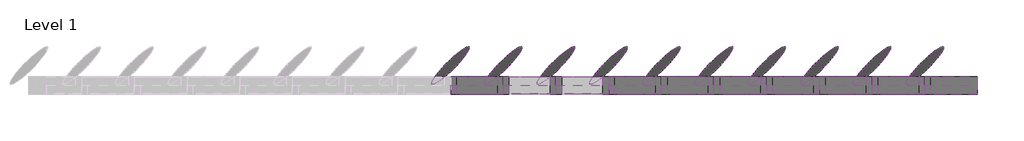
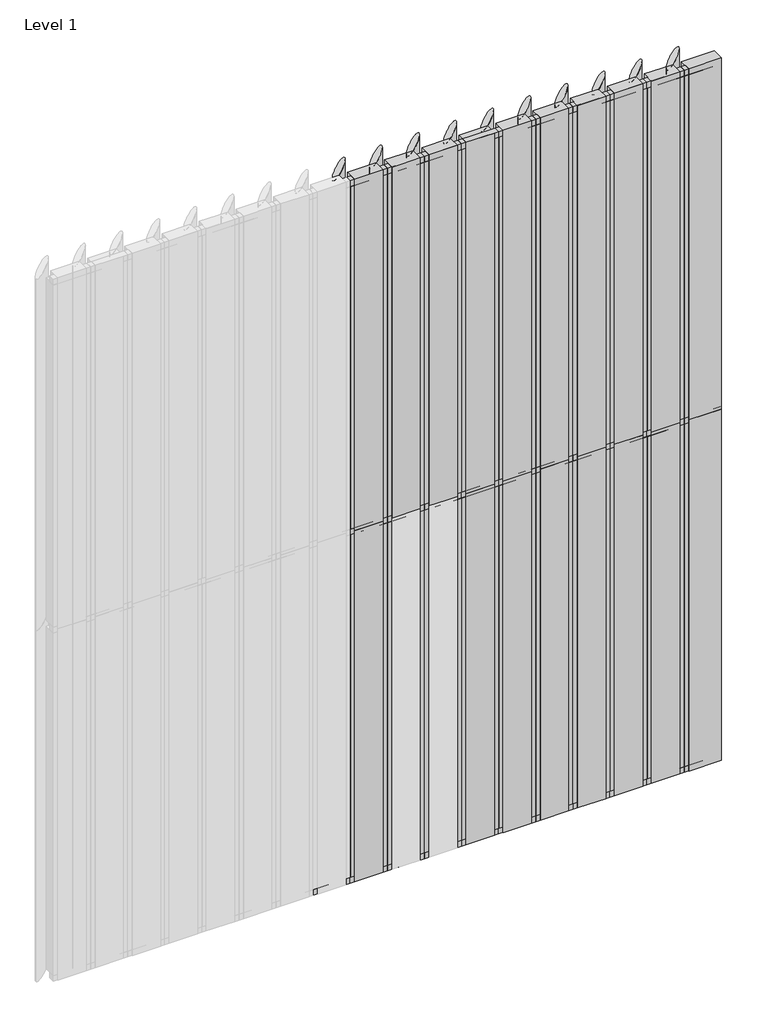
# One storey, part 2 of 2: 51 members, 38 plates.
"""IFC4 building model written with IfcOpenShell, lengths in millimetres."""

from ifc_helpers import new_model, si_unit, origin, place, context, project, spatial, transform, mapped, element, save
from components import rectangular_mullion_58689f85, rectangular_mullion_d9db7a7c, rectangular_mullion_bcb65166, rectangular_mullion_906318ec, empty_system_panel_empty_de177b29, empty_system_panel_empty_7e7673ae, empty_system_panel_empty_eacbfc0b

model = new_model("IFC4")

# Units and contexts
model_context = context("Model", 3, world=origin())
ifc_project = project(units=[si_unit("LENGTHUNIT", "METRE", prefix="MILLI")], contexts=[model_context])

# Site, building, storey
site = spatial("IfcSite", under=ifc_project)
building = spatial("IfcBuilding", under=site)
storey = spatial("IfcBuildingStorey", under=building, Name="Level 1", Elevation=0.0)

# Members
placement = place(None, origin())
rectangular_mullion_shape = rectangular_mullion_58689f85(model_context)
element("IfcMember", 1, ObjectType="Rectangular Mullion : RSen_21_CWM_blade - 300 ellips - 45°_gen_duco projects", at=placement, inside=storey, context=model_context, shape_type="MappedRepresentation", body=[
    mapped(rectangular_mullion_shape, transform((5700.0, 3000.0, 0.0), x_axis=(-1.0, 0.0, 0.0), y_axis=(0.0, 1.0, 0.0), z_axis=(0.0, 0.0, -1.0))),
])
element("IfcMember", 2, ObjectType="Rectangular Mullion : RSen_21_CWM_blade - 300 ellips - 45°_gen_duco projects", at=placement, inside=storey, context=model_context, shape_type="MappedRepresentation", body=[
    mapped(rectangular_mullion_shape, transform((5400.0, 3000.0, 0.0), x_axis=(-1.0, 0.0, 0.0), y_axis=(0.0, 1.0, 0.0), z_axis=(0.0, 0.0, -1.0))),
])
element("IfcMember", 3, ObjectType="Rectangular Mullion : RSen_21_CWM_blade - 300 ellips - 45°_gen_duco projects", at=placement, inside=storey, context=model_context, shape_type="MappedRepresentation", body=[
    mapped(rectangular_mullion_shape, transform((5100.0, 3000.0, 0.0), x_axis=(-1.0, 0.0, 0.0), y_axis=(0.0, 1.0, 0.0), z_axis=(0.0, 0.0, -1.0))),
])
element("IfcMember", 4, ObjectType="Rectangular Mullion : RSen_21_CWM_blade - 300 ellips - 45°_gen_duco projects", at=placement, inside=storey, context=model_context, shape_type="MappedRepresentation", body=[
    mapped(rectangular_mullion_shape, transform((4800.0, 3000.0, 0.0), x_axis=(-1.0, 0.0, 0.0), y_axis=(0.0, 1.0, 0.0), z_axis=(0.0, 0.0, -1.0))),
])
element("IfcMember", 5, ObjectType="Rectangular Mullion : RSen_21_CWM_blade - 300 ellips - 45°_gen_duco projects", at=placement, inside=storey, context=model_context, shape_type="MappedRepresentation", body=[
    mapped(rectangular_mullion_shape, transform((4500.0, 3000.0, 0.0), x_axis=(-1.0, 0.0, 0.0), y_axis=(0.0, 1.0, 0.0), z_axis=(0.0, 0.0, -1.0))),
])
element("IfcMember", 6, ObjectType="Rectangular Mullion : RSen_21_CWM_blade - 300 ellips - 45°_gen_duco projects", at=placement, inside=storey, context=model_context, shape_type="MappedRepresentation", body=[
    mapped(rectangular_mullion_shape, transform((4200.0, 3000.0, 0.0), x_axis=(-1.0, 0.0, 0.0), y_axis=(0.0, 1.0, 0.0), z_axis=(0.0, 0.0, -1.0))),
])
element("IfcMember", 7, ObjectType="Rectangular Mullion : RSen_21_CWM_blade - 300 ellips - 45°_gen_duco projects", at=placement, inside=storey, context=model_context, shape_type="MappedRepresentation", body=[
    mapped(rectangular_mullion_shape, transform((3900.0, 3000.0, 0.0), x_axis=(-1.0, 0.0, 0.0), y_axis=(0.0, 1.0, 0.0), z_axis=(0.0, 0.0, -1.0))),
])
element("IfcMember", 8, ObjectType="Rectangular Mullion : RSen_21_CWM_blade - 300 ellips - 45°_gen_duco projects", at=placement, inside=storey, context=model_context, shape_type="MappedRepresentation", body=[
    mapped(rectangular_mullion_shape, transform((3600.0, 3000.0, 0.0), x_axis=(-1.0, 0.0, 0.0), y_axis=(0.0, 1.0, 0.0), z_axis=(0.0, 0.0, -1.0))),
])
element("IfcMember", 9, ObjectType="Rectangular Mullion : RSen_21_CWM_blade - 300 ellips - 45°_gen_duco projects", at=placement, inside=storey, context=model_context, shape_type="MappedRepresentation", body=[
    mapped(rectangular_mullion_shape, transform((3300.0, 3000.0, 0.0), x_axis=(-1.0, 0.0, 0.0), y_axis=(0.0, 1.0, 0.0), z_axis=(0.0, 0.0, -1.0))),
])
element("IfcMember", 10, ObjectType="Rectangular Mullion : RSen_21_CWM_blade - 300 ellips - 45°_gen_duco projects", at=placement, inside=storey, context=model_context, shape_type="MappedRepresentation", body=[
    mapped(rectangular_mullion_shape, transform((3000.0, 3000.0, 0.0), x_axis=(-1.0, 0.0, 0.0), y_axis=(0.0, 1.0, 0.0), z_axis=(0.0, 0.0, -1.0))),
])
element("IfcMember", 11, ObjectType="Rectangular Mullion : RSen_21_CWM_blade - 300 ellips - 45°_gen_duco projects", at=placement, inside=storey, context=model_context, shape_type="MappedRepresentation", body=[
    mapped(rectangular_mullion_shape, transform((5700.0, 3000.0, 3000.0), x_axis=(-1.0, 0.0, 0.0), y_axis=(0.0, 1.0, 0.0), z_axis=(0.0, 0.0, -1.0))),
])
element("IfcMember", 12, ObjectType="Rectangular Mullion : RSen_21_CWM_blade - 300 ellips - 45°_gen_duco projects", at=placement, inside=storey, context=model_context, shape_type="MappedRepresentation", body=[
    mapped(rectangular_mullion_shape, transform((5400.0, 3000.0, 3000.0), x_axis=(-1.0, 0.0, 0.0), y_axis=(0.0, 1.0, 0.0), z_axis=(0.0, 0.0, -1.0))),
])
element("IfcMember", 13, ObjectType="Rectangular Mullion : RSen_21_CWM_blade - 300 ellips - 45°_gen_duco projects", at=placement, inside=storey, context=model_context, shape_type="MappedRepresentation", body=[
    mapped(rectangular_mullion_shape, transform((5100.0, 3000.0, 3000.0), x_axis=(-1.0, 0.0, 0.0), y_axis=(0.0, 1.0, 0.0), z_axis=(0.0, 0.0, -1.0))),
])
element("IfcMember", 14, ObjectType="Rectangular Mullion : RSen_21_CWM_blade - 300 ellips - 45°_gen_duco projects", at=placement, inside=storey, context=model_context, shape_type="MappedRepresentation", body=[
    mapped(rectangular_mullion_shape, transform((4800.0, 3000.0, 3000.0), x_axis=(-1.0, 0.0, 0.0), y_axis=(0.0, 1.0, 0.0), z_axis=(0.0, 0.0, -1.0))),
])
element("IfcMember", 15, ObjectType="Rectangular Mullion : RSen_21_CWM_blade - 300 ellips - 45°_gen_duco projects", at=placement, inside=storey, context=model_context, shape_type="MappedRepresentation", body=[
    mapped(rectangular_mullion_shape, transform((4500.0, 3000.0, 3000.0), x_axis=(-1.0, 0.0, 0.0), y_axis=(0.0, 1.0, 0.0), z_axis=(0.0, 0.0, -1.0))),
])
element("IfcMember", 16, ObjectType="Rectangular Mullion : RSen_21_CWM_blade - 300 ellips - 45°_gen_duco projects", at=placement, inside=storey, context=model_context, shape_type="MappedRepresentation", body=[
    mapped(rectangular_mullion_shape, transform((4200.0, 3000.0, 3000.0), x_axis=(-1.0, 0.0, 0.0), y_axis=(0.0, 1.0, 0.0), z_axis=(0.0, 0.0, -1.0))),
])
element("IfcMember", 17, ObjectType="Rectangular Mullion : RSen_21_CWM_blade - 300 ellips - 45°_gen_duco projects", at=placement, inside=storey, context=model_context, shape_type="MappedRepresentation", body=[
    mapped(rectangular_mullion_shape, transform((3900.0, 3000.0, 3000.0), x_axis=(-1.0, 0.0, 0.0), y_axis=(0.0, 1.0, 0.0), z_axis=(0.0, 0.0, -1.0))),
])
element("IfcMember", 18, ObjectType="Rectangular Mullion : RSen_21_CWM_blade - 300 ellips - 45°_gen_duco projects", at=placement, inside=storey, context=model_context, shape_type="MappedRepresentation", body=[
    mapped(rectangular_mullion_shape, transform((3600.0, 3000.0, 3000.0), x_axis=(-1.0, 0.0, 0.0), y_axis=(0.0, 1.0, 0.0), z_axis=(0.0, 0.0, -1.0))),
])
element("IfcMember", 19, ObjectType="Rectangular Mullion : RSen_21_CWM_blade - 300 ellips - 45°_gen_duco projects", at=placement, inside=storey, context=model_context, shape_type="MappedRepresentation", body=[
    mapped(rectangular_mullion_shape, transform((3300.0, 3000.0, 3000.0), x_axis=(-1.0, 0.0, 0.0), y_axis=(0.0, 1.0, 0.0), z_axis=(0.0, 0.0, -1.0))),
])
element("IfcMember", 20, ObjectType="Rectangular Mullion : RSen_21_CWM_blade - 300 ellips - 45°_gen_duco projects", at=placement, inside=storey, context=model_context, shape_type="MappedRepresentation", body=[
    mapped(rectangular_mullion_shape, transform((3000.0, 3000.0, 3000.0), x_axis=(-1.0, 0.0, 0.0), y_axis=(0.0, 1.0, 0.0), z_axis=(0.0, 0.0, -1.0))),
])
rectangular_mullion_2_shape = rectangular_mullion_d9db7a7c(model_context)
element("IfcMember", 21, ObjectType="Rectangular Mullion : RSen_21_CWM_support profile 50x50 - right_gen_duco projects", at=placement, inside=storey, context=model_context, shape_type="MappedRepresentation", body=[
    mapped(rectangular_mullion_2_shape, transform((6000.0, 3000.0, 0.0), x_axis=(0.0, 0.0, -1.0), y_axis=(0.0, 1.0, 0.0), z_axis=(1.0, 0.0, 0.0))),
])
rectangular_mullion_3_shape = rectangular_mullion_bcb65166(model_context)
element("IfcMember", 22, ObjectType="Rectangular Mullion : RSen_21_CWM_support profile 50x50 - left_gen_duco projects", at=placement, inside=storey, context=model_context, shape_type="MappedRepresentation", body=[
    mapped(rectangular_mullion_3_shape, transform((5700.0, 3000.0, 6000.0), x_axis=(0.0, 0.0, 1.0), y_axis=(0.0, 1.0, 0.0), z_axis=(-1.0, 0.0, 0.0))),
])
element("IfcMember", 23, ObjectType="Rectangular Mullion : RSen_21_CWM_support profile 50x50 - left_gen_duco projects", at=placement, inside=storey, context=model_context, shape_type="MappedRepresentation", body=[
    mapped(rectangular_mullion_3_shape, transform((5400.0, 3000.0, 6000.0), x_axis=(0.0, 0.0, 1.0), y_axis=(0.0, 1.0, 0.0), z_axis=(-1.0, 0.0, 0.0))),
])
element("IfcMember", 24, ObjectType="Rectangular Mullion : RSen_21_CWM_support profile 50x50 - left_gen_duco projects", at=placement, inside=storey, context=model_context, shape_type="MappedRepresentation", body=[
    mapped(rectangular_mullion_3_shape, transform((5100.0, 3000.0, 6000.0), x_axis=(0.0, 0.0, 1.0), y_axis=(0.0, 1.0, 0.0), z_axis=(-1.0, 0.0, 0.0))),
])
element("IfcMember", 25, ObjectType="Rectangular Mullion : RSen_21_CWM_support profile 50x50 - left_gen_duco projects", at=placement, inside=storey, context=model_context, shape_type="MappedRepresentation", body=[
    mapped(rectangular_mullion_3_shape, transform((4800.0, 3000.0, 6000.0), x_axis=(0.0, 0.0, 1.0), y_axis=(0.0, 1.0, 0.0), z_axis=(-1.0, 0.0, 0.0))),
])
element("IfcMember", 26, ObjectType="Rectangular Mullion : RSen_21_CWM_support profile 50x50 - left_gen_duco projects", at=placement, inside=storey, context=model_context, shape_type="MappedRepresentation", body=[
    mapped(rectangular_mullion_3_shape, transform((4500.0, 3000.0, 6000.0), x_axis=(0.0, 0.0, 1.0), y_axis=(0.0, 1.0, 0.0), z_axis=(-1.0, 0.0, 0.0))),
])
element("IfcMember", 27, ObjectType="Rectangular Mullion : RSen_21_CWM_support profile 50x50 - left_gen_duco projects", at=placement, inside=storey, context=model_context, shape_type="MappedRepresentation", body=[
    mapped(rectangular_mullion_3_shape, transform((4200.0, 3000.0, 6000.0), x_axis=(0.0, 0.0, 1.0), y_axis=(0.0, 1.0, 0.0), z_axis=(-1.0, 0.0, 0.0))),
])
element("IfcMember", 28, ObjectType="Rectangular Mullion : RSen_21_CWM_support profile 50x50 - left_gen_duco projects", at=placement, inside=storey, context=model_context, shape_type="MappedRepresentation", body=[
    mapped(rectangular_mullion_3_shape, transform((3900.0, 3000.0, 6000.0), x_axis=(0.0, 0.0, 1.0), y_axis=(0.0, 1.0, 0.0), z_axis=(-1.0, 0.0, 0.0))),
])
element("IfcMember", 29, ObjectType="Rectangular Mullion : RSen_21_CWM_support profile 50x50 - left_gen_duco projects", at=placement, inside=storey, context=model_context, shape_type="MappedRepresentation", body=[
    mapped(rectangular_mullion_3_shape, transform((3600.0, 3000.0, 6000.0), x_axis=(0.0, 0.0, 1.0), y_axis=(0.0, 1.0, 0.0), z_axis=(-1.0, 0.0, 0.0))),
])
element("IfcMember", 30, ObjectType="Rectangular Mullion : RSen_21_CWM_support profile 50x50 - left_gen_duco projects", at=placement, inside=storey, context=model_context, shape_type="MappedRepresentation", body=[
    mapped(rectangular_mullion_3_shape, transform((3300.0, 3000.0, 6000.0), x_axis=(0.0, 0.0, 1.0), y_axis=(0.0, 1.0, 0.0), z_axis=(-1.0, 0.0, 0.0))),
])
element("IfcMember", 31, ObjectType="Rectangular Mullion : RSen_21_CWM_support profile 50x50 - left_gen_duco projects", at=placement, inside=storey, context=model_context, shape_type="MappedRepresentation", body=[
    mapped(rectangular_mullion_3_shape, transform((3000.0, 3000.0, 6000.0), x_axis=(0.0, 0.0, 1.0), y_axis=(0.0, 1.0, 0.0), z_axis=(-1.0, 0.0, 0.0))),
])
element("IfcMember", 32, ObjectType="Rectangular Mullion : RSen_21_CWM_support profile 50x50 - right_gen_duco projects", at=placement, inside=storey, context=model_context, shape_type="MappedRepresentation", body=[
    mapped(rectangular_mullion_2_shape, transform((5700.0, 3000.0, 0.0), x_axis=(0.0, 0.0, -1.0), y_axis=(0.0, 1.0, 0.0), z_axis=(1.0, 0.0, 0.0))),
])
element("IfcMember", 33, ObjectType="Rectangular Mullion : RSen_21_CWM_support profile 50x50 - right_gen_duco projects", at=placement, inside=storey, context=model_context, shape_type="MappedRepresentation", body=[
    mapped(rectangular_mullion_2_shape, transform((5400.0, 3000.0, 0.0), x_axis=(0.0, 0.0, -1.0), y_axis=(0.0, 1.0, 0.0), z_axis=(1.0, 0.0, 0.0))),
])
element("IfcMember", 34, ObjectType="Rectangular Mullion : RSen_21_CWM_support profile 50x50 - right_gen_duco projects", at=placement, inside=storey, context=model_context, shape_type="MappedRepresentation", body=[
    mapped(rectangular_mullion_2_shape, transform((5100.0, 3000.0, 0.0), x_axis=(0.0, 0.0, -1.0), y_axis=(0.0, 1.0, 0.0), z_axis=(1.0, 0.0, 0.0))),
])
element("IfcMember", 35, ObjectType="Rectangular Mullion : RSen_21_CWM_support profile 50x50 - right_gen_duco projects", at=placement, inside=storey, context=model_context, shape_type="MappedRepresentation", body=[
    mapped(rectangular_mullion_2_shape, transform((4800.0, 3000.0, 0.0), x_axis=(0.0, 0.0, -1.0), y_axis=(0.0, 1.0, 0.0), z_axis=(1.0, 0.0, 0.0))),
])
element("IfcMember", 36, ObjectType="Rectangular Mullion : RSen_21_CWM_support profile 50x50 - right_gen_duco projects", at=placement, inside=storey, context=model_context, shape_type="MappedRepresentation", body=[
    mapped(rectangular_mullion_2_shape, transform((4500.0, 3000.0, 0.0), x_axis=(0.0, 0.0, -1.0), y_axis=(0.0, 1.0, 0.0), z_axis=(1.0, 0.0, 0.0))),
])
element("IfcMember", 37, ObjectType="Rectangular Mullion : RSen_21_CWM_support profile 50x50 - right_gen_duco projects", at=placement, inside=storey, context=model_context, shape_type="MappedRepresentation", body=[
    mapped(rectangular_mullion_2_shape, transform((4200.0, 3000.0, 0.0), x_axis=(0.0, 0.0, -1.0), y_axis=(0.0, 1.0, 0.0), z_axis=(1.0, 0.0, 0.0))),
])
element("IfcMember", 38, ObjectType="Rectangular Mullion : RSen_21_CWM_support profile 50x50 - right_gen_duco projects", at=placement, inside=storey, context=model_context, shape_type="MappedRepresentation", body=[
    mapped(rectangular_mullion_2_shape, transform((3900.0, 3000.0, 0.0), x_axis=(0.0, 0.0, -1.0), y_axis=(0.0, 1.0, 0.0), z_axis=(1.0, 0.0, 0.0))),
])
element("IfcMember", 39, ObjectType="Rectangular Mullion : RSen_21_CWM_support profile 50x50 - right_gen_duco projects", at=placement, inside=storey, context=model_context, shape_type="MappedRepresentation", body=[
    mapped(rectangular_mullion_2_shape, transform((3600.0, 3000.0, 0.0), x_axis=(0.0, 0.0, -1.0), y_axis=(0.0, 1.0, 0.0), z_axis=(1.0, 0.0, 0.0))),
])
element("IfcMember", 40, ObjectType="Rectangular Mullion : RSen_21_CWM_support profile 50x50 - right_gen_duco projects", at=placement, inside=storey, context=model_context, shape_type="MappedRepresentation", body=[
    mapped(rectangular_mullion_2_shape, transform((3300.0, 3000.0, 0.0), x_axis=(0.0, 0.0, -1.0), y_axis=(0.0, 1.0, 0.0), z_axis=(1.0, 0.0, 0.0))),
])
element("IfcMember", 41, ObjectType="Rectangular Mullion : RSen_21_CWM_support profile 50x50 - right_gen_duco projects", at=placement, inside=storey, context=model_context, shape_type="MappedRepresentation", body=[
    mapped(rectangular_mullion_2_shape, transform((3000.0, 3000.0, 0.0), x_axis=(0.0, 0.0, -1.0), y_axis=(0.0, 1.0, 0.0), z_axis=(1.0, 0.0, 0.0))),
])
rectangular_mullion_4_shape = rectangular_mullion_906318ec(model_context)
element("IfcMember", 42, ObjectType="Rectangular Mullion : RSen_21_CWM_support profile 50x50_gen_duco projects", at=placement, inside=storey, context=model_context, shape_type="MappedRepresentation", body=[
    mapped(rectangular_mullion_4_shape, transform((5700.0, 3000.0, 3000.0), x_axis=(0.0, 0.0, 1.0), y_axis=(0.0, 1.0, 0.0), z_axis=(-1.0, 0.0, 0.0))),
])
element("IfcMember", 43, ObjectType="Rectangular Mullion : RSen_21_CWM_support profile 50x50_gen_duco projects", at=placement, inside=storey, context=model_context, shape_type="MappedRepresentation", body=[
    mapped(rectangular_mullion_4_shape, transform((5400.0, 3000.0, 3000.0), x_axis=(0.0, 0.0, 1.0), y_axis=(0.0, 1.0, 0.0), z_axis=(-1.0, 0.0, 0.0))),
])
element("IfcMember", 44, ObjectType="Rectangular Mullion : RSen_21_CWM_support profile 50x50_gen_duco projects", at=placement, inside=storey, context=model_context, shape_type="MappedRepresentation", body=[
    mapped(rectangular_mullion_4_shape, transform((5100.0, 3000.0, 3000.0), x_axis=(0.0, 0.0, 1.0), y_axis=(0.0, 1.0, 0.0), z_axis=(-1.0, 0.0, 0.0))),
])
element("IfcMember", 45, ObjectType="Rectangular Mullion : RSen_21_CWM_support profile 50x50_gen_duco projects", at=placement, inside=storey, context=model_context, shape_type="MappedRepresentation", body=[
    mapped(rectangular_mullion_4_shape, transform((4800.0, 3000.0, 3000.0), x_axis=(0.0, 0.0, 1.0), y_axis=(0.0, 1.0, 0.0), z_axis=(-1.0, 0.0, 0.0))),
])
element("IfcMember", 46, ObjectType="Rectangular Mullion : RSen_21_CWM_support profile 50x50_gen_duco projects", at=placement, inside=storey, context=model_context, shape_type="MappedRepresentation", body=[
    mapped(rectangular_mullion_4_shape, transform((4500.0, 3000.0, 3000.0), x_axis=(0.0, 0.0, 1.0), y_axis=(0.0, 1.0, 0.0), z_axis=(-1.0, 0.0, 0.0))),
])
element("IfcMember", 47, ObjectType="Rectangular Mullion : RSen_21_CWM_support profile 50x50_gen_duco projects", at=placement, inside=storey, context=model_context, shape_type="MappedRepresentation", body=[
    mapped(rectangular_mullion_4_shape, transform((4200.0, 3000.0, 3000.0), x_axis=(0.0, 0.0, 1.0), y_axis=(0.0, 1.0, 0.0), z_axis=(-1.0, 0.0, 0.0))),
])
element("IfcMember", 48, ObjectType="Rectangular Mullion : RSen_21_CWM_support profile 50x50_gen_duco projects", at=placement, inside=storey, context=model_context, shape_type="MappedRepresentation", body=[
    mapped(rectangular_mullion_4_shape, transform((3900.0, 3000.0, 3000.0), x_axis=(0.0, 0.0, 1.0), y_axis=(0.0, 1.0, 0.0), z_axis=(-1.0, 0.0, 0.0))),
])
element("IfcMember", 49, ObjectType="Rectangular Mullion : RSen_21_CWM_support profile 50x50_gen_duco projects", at=placement, inside=storey, context=model_context, shape_type="MappedRepresentation", body=[
    mapped(rectangular_mullion_4_shape, transform((3600.0, 3000.0, 3000.0), x_axis=(0.0, 0.0, 1.0), y_axis=(0.0, 1.0, 0.0), z_axis=(-1.0, 0.0, 0.0))),
])
element("IfcMember", 50, ObjectType="Rectangular Mullion : RSen_21_CWM_support profile 50x50_gen_duco projects", at=placement, inside=storey, context=model_context, shape_type="MappedRepresentation", body=[
    mapped(rectangular_mullion_4_shape, transform((3300.0, 3000.0, 3000.0), x_axis=(0.0, 0.0, 1.0), y_axis=(0.0, 1.0, 0.0), z_axis=(-1.0, 0.0, 0.0))),
])
element("IfcMember", 51, ObjectType="Rectangular Mullion : RSen_21_CWM_support profile 50x50_gen_duco projects", at=placement, inside=storey, context=model_context, shape_type="MappedRepresentation", body=[
    mapped(rectangular_mullion_4_shape, transform((3000.0, 3000.0, 3000.0), x_axis=(0.0, 0.0, 1.0), y_axis=(0.0, 1.0, 0.0), z_axis=(-1.0, 0.0, 0.0))),
])

# Plates
empty_system_panel_empty_shape = empty_system_panel_empty_de177b29(model_context)
element("IfcPlate", 52, ObjectType="Empty System Panel : Empty", at=placement, inside=storey, context=model_context, shape_type="MappedRepresentation", body=[
    mapped(empty_system_panel_empty_shape, transform((5867.6776695, 3000.0, 0.0), x_axis=(-1.0, 0.0, 0.0), y_axis=(0.0, -1.0, 0.0), z_axis=(0.0, 0.0, 1.0))),
])
element("IfcPlate", 53, ObjectType="Empty System Panel : Empty", at=placement, inside=storey, context=model_context, shape_type="MappedRepresentation", body=[
    mapped(empty_system_panel_empty_shape, transform((5867.6776695, 3000.0, 3000.0), x_axis=(-1.0, 0.0, 0.0), y_axis=(0.0, -1.0, 0.0), z_axis=(0.0, 0.0, 1.0))),
])
empty_system_panel_empty_2_shape = empty_system_panel_empty_7e7673ae(model_context)
element("IfcPlate", 54, ObjectType="Empty System Panel : Empty", at=placement, inside=storey, context=model_context, shape_type="MappedRepresentation", body=[
    mapped(empty_system_panel_empty_2_shape, transform((5550.0, 3000.0, 0.0), x_axis=(-1.0, 0.0, 0.0), y_axis=(0.0, -1.0, 0.0), z_axis=(0.0, 0.0, 1.0))),
])
element("IfcPlate", 55, ObjectType="Empty System Panel : Empty", at=placement, inside=storey, context=model_context, shape_type="MappedRepresentation", body=[
    mapped(empty_system_panel_empty_2_shape, transform((5250.0, 3000.0, 0.0), x_axis=(-1.0, 0.0, 0.0), y_axis=(0.0, -1.0, 0.0), z_axis=(0.0, 0.0, 1.0))),
])
element("IfcPlate", 56, ObjectType="Empty System Panel : Empty", at=placement, inside=storey, context=model_context, shape_type="MappedRepresentation", body=[
    mapped(empty_system_panel_empty_2_shape, transform((4950.0, 3000.0, 0.0), x_axis=(-1.0, 0.0, 0.0), y_axis=(0.0, -1.0, 0.0), z_axis=(0.0, 0.0, 1.0))),
])
element("IfcPlate", 57, ObjectType="Empty System Panel : Empty", at=placement, inside=storey, context=model_context, shape_type="MappedRepresentation", body=[
    mapped(empty_system_panel_empty_2_shape, transform((4650.0, 3000.0, 0.0), x_axis=(-1.0, 0.0, 0.0), y_axis=(0.0, -1.0, 0.0), z_axis=(0.0, 0.0, 1.0))),
])
element("IfcPlate", 58, ObjectType="Empty System Panel : Empty", at=placement, inside=storey, context=model_context, shape_type="MappedRepresentation", body=[
    mapped(empty_system_panel_empty_2_shape, transform((4350.0, 3000.0, 0.0), x_axis=(-1.0, 0.0, 0.0), y_axis=(0.0, -1.0, 0.0), z_axis=(0.0, 0.0, 1.0))),
])
element("IfcPlate", 59, ObjectType="Empty System Panel : Empty", at=placement, inside=storey, context=model_context, shape_type="MappedRepresentation", body=[
    mapped(empty_system_panel_empty_2_shape, transform((4050.0, 3000.0, 0.0), x_axis=(-1.0, 0.0, 0.0), y_axis=(0.0, -1.0, 0.0), z_axis=(0.0, 0.0, 1.0))),
])
element("IfcPlate", 60, ObjectType="Empty System Panel : Empty", at=placement, inside=storey, context=model_context, shape_type="MappedRepresentation", body=[
    mapped(empty_system_panel_empty_2_shape, transform((3150.0, 3000.0, 0.0), x_axis=(-1.0, 0.0, 0.0), y_axis=(0.0, -1.0, 0.0), z_axis=(0.0, 0.0, 1.0))),
])
element("IfcPlate", 61, ObjectType="Empty System Panel : Empty", at=placement, inside=storey, context=model_context, shape_type="MappedRepresentation", body=[
    mapped(empty_system_panel_empty_2_shape, transform((5550.0, 3000.0, 3000.0), x_axis=(-1.0, 0.0, 0.0), y_axis=(0.0, -1.0, 0.0), z_axis=(0.0, 0.0, 1.0))),
])
element("IfcPlate", 62, ObjectType="Empty System Panel : Empty", at=placement, inside=storey, context=model_context, shape_type="MappedRepresentation", body=[
    mapped(empty_system_panel_empty_2_shape, transform((5250.0, 3000.0, 3000.0), x_axis=(-1.0, 0.0, 0.0), y_axis=(0.0, -1.0, 0.0), z_axis=(0.0, 0.0, 1.0))),
])
element("IfcPlate", 63, ObjectType="Empty System Panel : Empty", at=placement, inside=storey, context=model_context, shape_type="MappedRepresentation", body=[
    mapped(empty_system_panel_empty_2_shape, transform((4950.0, 3000.0, 3000.0), x_axis=(-1.0, 0.0, 0.0), y_axis=(0.0, -1.0, 0.0), z_axis=(0.0, 0.0, 1.0))),
])
element("IfcPlate", 64, ObjectType="Empty System Panel : Empty", at=placement, inside=storey, context=model_context, shape_type="MappedRepresentation", body=[
    mapped(empty_system_panel_empty_2_shape, transform((4650.0, 3000.0, 3000.0), x_axis=(-1.0, 0.0, 0.0), y_axis=(0.0, -1.0, 0.0), z_axis=(0.0, 0.0, 1.0))),
])
element("IfcPlate", 65, ObjectType="Empty System Panel : Empty", at=placement, inside=storey, context=model_context, shape_type="MappedRepresentation", body=[
    mapped(empty_system_panel_empty_2_shape, transform((4350.0, 3000.0, 3000.0), x_axis=(-1.0, 0.0, 0.0), y_axis=(0.0, -1.0, 0.0), z_axis=(0.0, 0.0, 1.0))),
])
element("IfcPlate", 66, ObjectType="Empty System Panel : Empty", at=placement, inside=storey, context=model_context, shape_type="MappedRepresentation", body=[
    mapped(empty_system_panel_empty_2_shape, transform((4050.0, 3000.0, 3000.0), x_axis=(-1.0, 0.0, 0.0), y_axis=(0.0, -1.0, 0.0), z_axis=(0.0, 0.0, 1.0))),
])
element("IfcPlate", 67, ObjectType="Empty System Panel : Empty", at=placement, inside=storey, context=model_context, shape_type="MappedRepresentation", body=[
    mapped(empty_system_panel_empty_2_shape, transform((3750.0, 3000.0, 3000.0), x_axis=(-1.0, 0.0, 0.0), y_axis=(0.0, -1.0, 0.0), z_axis=(0.0, 0.0, 1.0))),
])
element("IfcPlate", 68, ObjectType="Empty System Panel : Empty", at=placement, inside=storey, context=model_context, shape_type="MappedRepresentation", body=[
    mapped(empty_system_panel_empty_2_shape, transform((3450.0, 3000.0, 3000.0), x_axis=(-1.0, 0.0, 0.0), y_axis=(0.0, -1.0, 0.0), z_axis=(0.0, 0.0, 1.0))),
])
element("IfcPlate", 69, ObjectType="Empty System Panel : Empty", at=placement, inside=storey, context=model_context, shape_type="MappedRepresentation", body=[
    mapped(empty_system_panel_empty_2_shape, transform((3150.0, 3000.0, 3000.0), x_axis=(-1.0, 0.0, 0.0), y_axis=(0.0, -1.0, 0.0), z_axis=(0.0, 0.0, 1.0))),
])
empty_system_panel_empty_3_shape = empty_system_panel_empty_eacbfc0b(model_context)
element("IfcPlate", 70, ObjectType="Empty System Panel : Empty", at=placement, inside=storey, context=model_context, shape_type="MappedRepresentation", body=[
    mapped(empty_system_panel_empty_3_shape, transform((5850.0, 3000.0, 50.0), x_axis=(-1.0, 0.0, 0.0), y_axis=(0.0, -1.0, 0.0), z_axis=(0.0, 0.0, 1.0))),
])
element("IfcPlate", 71, ObjectType="Empty System Panel : Empty", at=placement, inside=storey, context=model_context, shape_type="MappedRepresentation", body=[
    mapped(empty_system_panel_empty_3_shape, transform((5550.0, 3000.0, 50.0), x_axis=(-1.0, 0.0, 0.0), y_axis=(0.0, -1.0, 0.0), z_axis=(0.0, 0.0, 1.0))),
])
element("IfcPlate", 72, ObjectType="Empty System Panel : Empty", at=placement, inside=storey, context=model_context, shape_type="MappedRepresentation", body=[
    mapped(empty_system_panel_empty_3_shape, transform((5250.0, 3000.0, 50.0), x_axis=(-1.0, 0.0, 0.0), y_axis=(0.0, -1.0, 0.0), z_axis=(0.0, 0.0, 1.0))),
])
element("IfcPlate", 73, ObjectType="Empty System Panel : Empty", at=placement, inside=storey, context=model_context, shape_type="MappedRepresentation", body=[
    mapped(empty_system_panel_empty_3_shape, transform((4950.0, 3000.0, 50.0), x_axis=(-1.0, 0.0, 0.0), y_axis=(0.0, -1.0, 0.0), z_axis=(0.0, 0.0, 1.0))),
])
element("IfcPlate", 74, ObjectType="Empty System Panel : Empty", at=placement, inside=storey, context=model_context, shape_type="MappedRepresentation", body=[
    mapped(empty_system_panel_empty_3_shape, transform((4650.0, 3000.0, 50.0), x_axis=(-1.0, 0.0, 0.0), y_axis=(0.0, -1.0, 0.0), z_axis=(0.0, 0.0, 1.0))),
])
element("IfcPlate", 75, ObjectType="Empty System Panel : Empty", at=placement, inside=storey, context=model_context, shape_type="MappedRepresentation", body=[
    mapped(empty_system_panel_empty_3_shape, transform((4350.0, 3000.0, 50.0), x_axis=(-1.0, 0.0, 0.0), y_axis=(0.0, -1.0, 0.0), z_axis=(0.0, 0.0, 1.0))),
])
element("IfcPlate", 76, ObjectType="Empty System Panel : Empty", at=placement, inside=storey, context=model_context, shape_type="MappedRepresentation", body=[
    mapped(empty_system_panel_empty_3_shape, transform((4050.0, 3000.0, 50.0), x_axis=(-1.0, 0.0, 0.0), y_axis=(0.0, -1.0, 0.0), z_axis=(0.0, 0.0, 1.0))),
])
element("IfcPlate", 77, ObjectType="Empty System Panel : Empty", at=placement, inside=storey, context=model_context, shape_type="MappedRepresentation", body=[
    mapped(empty_system_panel_empty_3_shape, transform((3750.0, 3000.0, 50.0), x_axis=(-1.0, 0.0, 0.0), y_axis=(0.0, -1.0, 0.0), z_axis=(0.0, 0.0, 1.0))),
])
element("IfcPlate", 78, ObjectType="Empty System Panel : Empty", at=placement, inside=storey, context=model_context, shape_type="MappedRepresentation", body=[
    mapped(empty_system_panel_empty_3_shape, transform((3450.0, 3000.0, 50.0), x_axis=(-1.0, 0.0, 0.0), y_axis=(0.0, -1.0, 0.0), z_axis=(0.0, 0.0, 1.0))),
])
element("IfcPlate", 79, ObjectType="Empty System Panel : Empty", at=placement, inside=storey, context=model_context, shape_type="MappedRepresentation", body=[
    mapped(empty_system_panel_empty_3_shape, transform((3150.0, 3000.0, 50.0), x_axis=(-1.0, 0.0, 0.0), y_axis=(0.0, -1.0, 0.0), z_axis=(0.0, 0.0, 1.0))),
])
element("IfcPlate", 80, ObjectType="Empty System Panel : Empty", at=placement, inside=storey, context=model_context, shape_type="MappedRepresentation", body=[
    mapped(empty_system_panel_empty_3_shape, transform((5850.0, 3000.0, 3025.0), x_axis=(-1.0, 0.0, 0.0), y_axis=(0.0, -1.0, 0.0), z_axis=(0.0, 0.0, 1.0))),
])
element("IfcPlate", 81, ObjectType="Empty System Panel : Empty", at=placement, inside=storey, context=model_context, shape_type="MappedRepresentation", body=[
    mapped(empty_system_panel_empty_3_shape, transform((5550.0, 3000.0, 3025.0), x_axis=(-1.0, 0.0, 0.0), y_axis=(0.0, -1.0, 0.0), z_axis=(0.0, 0.0, 1.0))),
])
element("IfcPlate", 82, ObjectType="Empty System Panel : Empty", at=placement, inside=storey, context=model_context, shape_type="MappedRepresentation", body=[
    mapped(empty_system_panel_empty_3_shape, transform((5250.0, 3000.0, 3025.0), x_axis=(-1.0, 0.0, 0.0), y_axis=(0.0, -1.0, 0.0), z_axis=(0.0, 0.0, 1.0))),
])
element("IfcPlate", 83, ObjectType="Empty System Panel : Empty", at=placement, inside=storey, context=model_context, shape_type="MappedRepresentation", body=[
    mapped(empty_system_panel_empty_3_shape, transform((4950.0, 3000.0, 3025.0), x_axis=(-1.0, 0.0, 0.0), y_axis=(0.0, -1.0, 0.0), z_axis=(0.0, 0.0, 1.0))),
])
element("IfcPlate", 84, ObjectType="Empty System Panel : Empty", at=placement, inside=storey, context=model_context, shape_type="MappedRepresentation", body=[
    mapped(empty_system_panel_empty_3_shape, transform((4650.0, 3000.0, 3025.0), x_axis=(-1.0, 0.0, 0.0), y_axis=(0.0, -1.0, 0.0), z_axis=(0.0, 0.0, 1.0))),
])
element("IfcPlate", 85, ObjectType="Empty System Panel : Empty", at=placement, inside=storey, context=model_context, shape_type="MappedRepresentation", body=[
    mapped(empty_system_panel_empty_3_shape, transform((4350.0, 3000.0, 3025.0), x_axis=(-1.0, 0.0, 0.0), y_axis=(0.0, -1.0, 0.0), z_axis=(0.0, 0.0, 1.0))),
])
element("IfcPlate", 86, ObjectType="Empty System Panel : Empty", at=placement, inside=storey, context=model_context, shape_type="MappedRepresentation", body=[
    mapped(empty_system_panel_empty_3_shape, transform((4050.0, 3000.0, 3025.0), x_axis=(-1.0, 0.0, 0.0), y_axis=(0.0, -1.0, 0.0), z_axis=(0.0, 0.0, 1.0))),
])
element("IfcPlate", 87, ObjectType="Empty System Panel : Empty", at=placement, inside=storey, context=model_context, shape_type="MappedRepresentation", body=[
    mapped(empty_system_panel_empty_3_shape, transform((3750.0, 3000.0, 3025.0), x_axis=(-1.0, 0.0, 0.0), y_axis=(0.0, -1.0, 0.0), z_axis=(0.0, 0.0, 1.0))),
])
element("IfcPlate", 88, ObjectType="Empty System Panel : Empty", at=placement, inside=storey, context=model_context, shape_type="MappedRepresentation", body=[
    mapped(empty_system_panel_empty_3_shape, transform((3450.0, 3000.0, 3025.0), x_axis=(-1.0, 0.0, 0.0), y_axis=(0.0, -1.0, 0.0), z_axis=(0.0, 0.0, 1.0))),
])
element("IfcPlate", 89, ObjectType="Empty System Panel : Empty", at=placement, inside=storey, context=model_context, shape_type="MappedRepresentation", body=[
    mapped(empty_system_panel_empty_3_shape, transform((3150.0, 3000.0, 3025.0), x_axis=(-1.0, 0.0, 0.0), y_axis=(0.0, -1.0, 0.0), z_axis=(0.0, 0.0, 1.0))),
])

save(model, "model.ifc")
